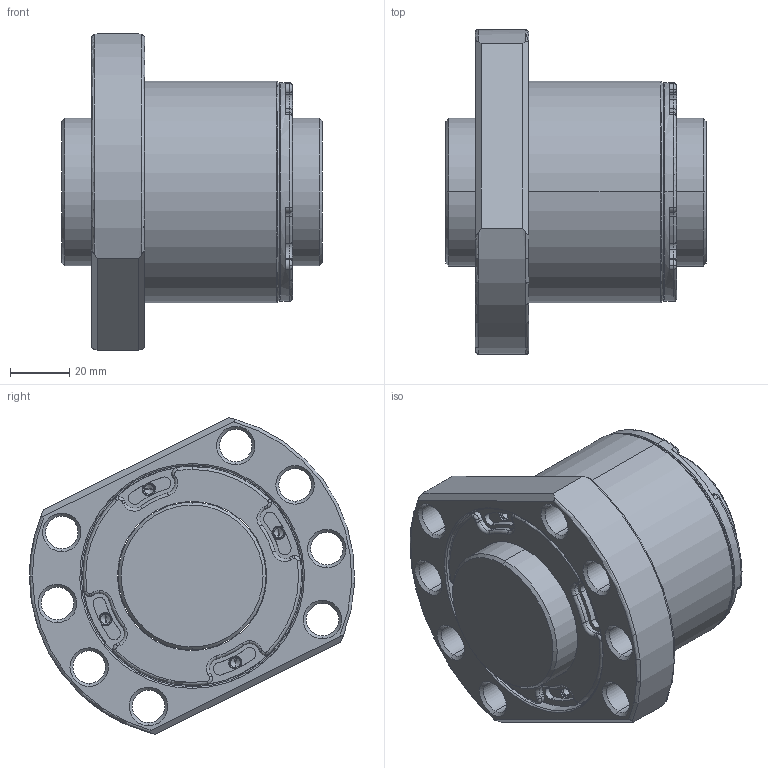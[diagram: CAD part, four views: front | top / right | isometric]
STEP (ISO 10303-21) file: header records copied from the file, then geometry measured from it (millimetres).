
FILE_DESCRIPTION (( 'STEP AP203' ), '1' );
FILE_NAME ('SFSR05010C1D-C.STEP', '2020-06-17T01:54:51', ( '' ), ( '' ), 'SwSTEP 2.0', 'SolidWorks 2013', '' );
FILE_SCHEMA (( 'CONFIG_CONTROL_DESIGN' ));
Length unit declared in the file: millimetre
Products named in the file (1): SFSR05010C1D-C
Bounding box: 88 x 109.93 x 107.22 mm (x, y, z)
Volume: 380210.7 mm3; surface area: 66308.9 mm2
Topology: 2 solids, 2 shells, 416 faces, 1026 edges, 625 vertices
Faces by surface type: cylinder 184, plane 85, torus 79, cone 68
Entity records: 14561 total; most frequent: CARTESIAN_POINT 4308, DIRECTION 2392, ORIENTED_EDGE 2020, AXIS2_PLACEMENT_3D 1037, EDGE_CURVE 1010, VERTEX_POINT 625, CIRCLE 620, EDGE_LOOP 463
